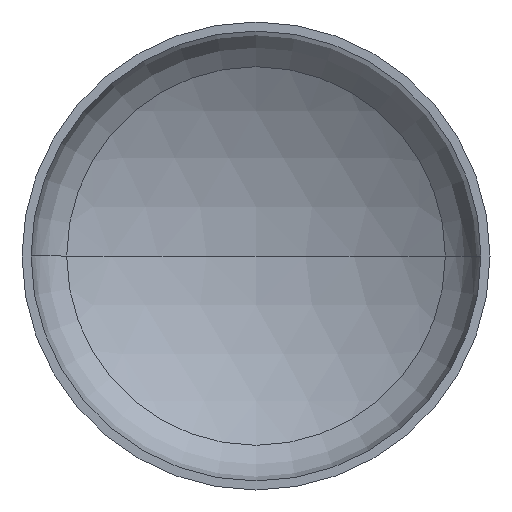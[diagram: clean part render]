
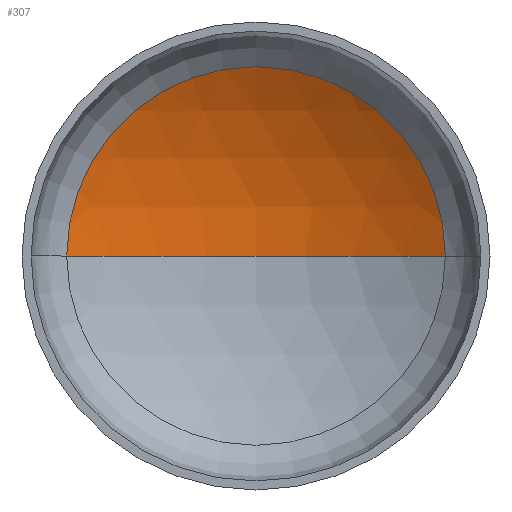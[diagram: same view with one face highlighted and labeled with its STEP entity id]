
A CAD part, front view. The second image highlights one B-rep face of the part: STEP entity #307.
In plain terms, the highlighted spherical face has radius 4800 mm.
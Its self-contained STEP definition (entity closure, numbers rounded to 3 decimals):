
#22 = AXIS2_PLACEMENT_3D ( 'NONE', #288, #310, #328 ) ;
#25 = ORIENTED_EDGE ( 'NONE', *, *, #127, .F. ) ;
#40 = DIRECTION ( 'NONE',  ( 1., 0., 0. ) ) ;
#46 = VERTEX_POINT ( 'NONE', #206 ) ;
#50 = DIRECTION ( 'NONE',  ( 0., -1., 0. ) ) ;
#59 = AXIS2_PLACEMENT_3D ( 'NONE', #85, #314, #158 ) ;
#60 = AXIS2_PLACEMENT_3D ( 'NONE', #232, #280, #258 ) ;
#65 = EDGE_LOOP ( 'NONE', ( #25, #156, #96 ) ) ;
#67 = AXIS2_PLACEMENT_3D ( 'NONE', #224, #50, #40 ) ;
#85 = CARTESIAN_POINT ( 'NONE',  ( 0., -3268.343, 0. ) ) ;
#96 = ORIENTED_EDGE ( 'NONE', *, *, #124, .T. ) ;
#106 = VERTEX_POINT ( 'NONE', #249 ) ;
#124 = EDGE_CURVE ( 'NONE', #106, #46, #333, .T. ) ;
#125 = EDGE_CURVE ( 'NONE', #222, #106, #210, .T. ) ;
#127 = EDGE_CURVE ( 'NONE', #222, #46, #387, .T. ) ;
#156 = ORIENTED_EDGE ( 'NONE', *, *, #125, .T. ) ;
#158 = DIRECTION ( 'NONE',  ( 1., 0., 0. ) ) ;
#206 = CARTESIAN_POINT ( 'NONE',  ( -2426.632, 873.088, 0. ) ) ;
#210 = CIRCLE ( 'NONE', #60, 4800. ) ;
#222 = VERTEX_POINT ( 'NONE', #261 ) ;
#224 = CARTESIAN_POINT ( 'NONE',  ( 0., 873.088, 0. ) ) ;
#232 = CARTESIAN_POINT ( 'NONE',  ( 0., -3268.343, 0. ) ) ;
#249 = CARTESIAN_POINT ( 'NONE',  ( 2426.632, 873.088, 0. ) ) ;
#258 = DIRECTION ( 'NONE',  ( -1., 0., 0. ) ) ;
#261 = CARTESIAN_POINT ( 'NONE',  ( 0., 1531.657, 0. ) ) ;
#280 = DIRECTION ( 'NONE',  ( 0., 0., -1. ) ) ;
#288 = CARTESIAN_POINT ( 'NONE',  ( 0., -3268.343, 0. ) ) ;
#302 = FACE_OUTER_BOUND ( 'NONE', #65, .T. ) ;
#307 = ADVANCED_FACE ( 'NONE', ( #302 ), #366, .F. ) ;
#310 = DIRECTION ( 'NONE',  ( 0., 0., -1. ) ) ;
#314 = DIRECTION ( 'NONE',  ( 0., 0., 1. ) ) ;
#328 = DIRECTION ( 'NONE',  ( -1., 0., 0. ) ) ;
#333 = CIRCLE ( 'NONE', #67, 2426.632 ) ;
#366 = SPHERICAL_SURFACE ( 'NONE', #22, 4800. ) ;
#387 = CIRCLE ( 'NONE', #59, 4800. ) ;
